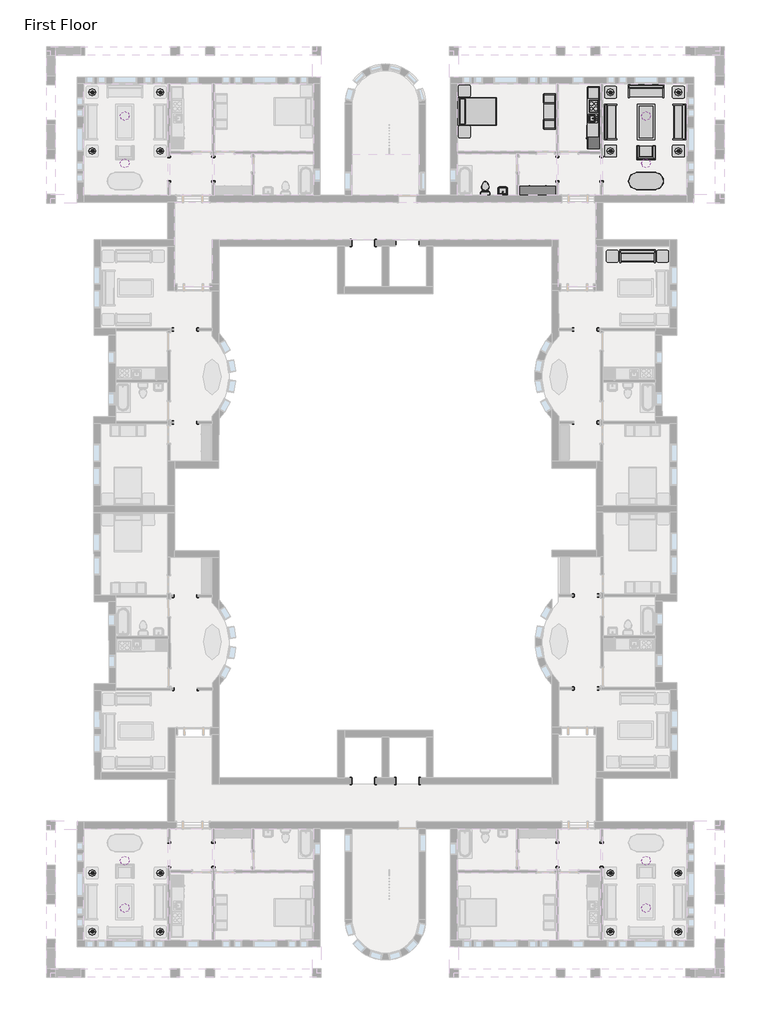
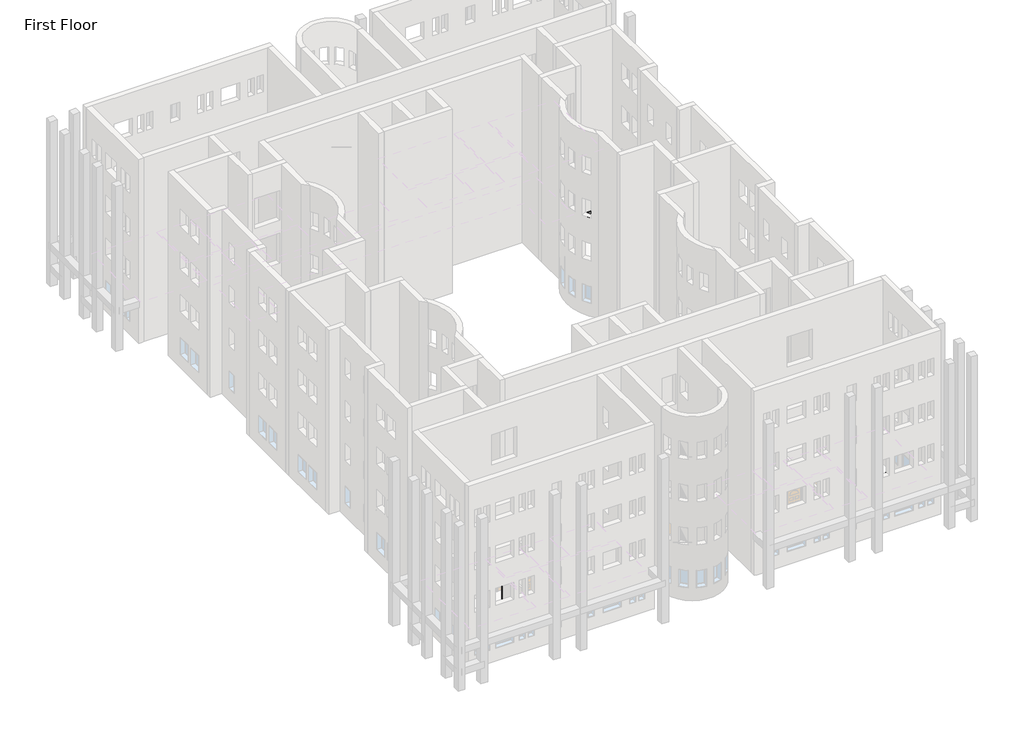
# One storey, part 21 of 21: 24 light fixtures, 21 proxies, 18 furniture elements, 2 flow terminals.
"""IFC4 building model written with IfcOpenShell, lengths in millimetres."""

from ifc_helpers import new_model, si_unit, origin, place, context, project, spatial, transform, mapped, element, save
from components import proxy_64a468c4, proxy_1227038f, proxy_f44482cc, proxy_c3589814, proxy_d58c73d0, proxy_1659ed5c, flow_terminal_0aeb31e3, toilet_domestic_3d_toilet_domestic_3d_f7549cf7, toilet_domestic_3d_toilet_domestic_3d_183bbd19, furniture_096e7f55, chair_corbu_chair_corbu_2764bdef, furniture_7c473f12, furniture_ddc78764, furniture_4ef38d96, furniture_cd93a443, furniture_2c34a4f9, furniture_3a588284, furniture_1befe2a2, pendant_disk_c68bffb6, pendant_disk_c567000c, table_lamp_1_100_watt_incandescent_6e8cd8b1, table_lamp_1_100_watt_incandescent_b33ea945

model = new_model("IFC4")

# Units and contexts
model_context = context("Model", 3, world=origin())
ifc_project = project(units=[si_unit("LENGTHUNIT", "METRE", prefix="MILLI")], contexts=[model_context])

# Site, building, storey
site = spatial("IfcSite", under=ifc_project)
building = spatial("IfcBuilding", under=site)
storey = spatial("IfcBuildingStorey", under=building, Name="First Floor", Elevation=0.0)

# Proxies
placement = place(None, origin())
proxy_shape = proxy_64a468c4(model_context)
element("IfcBuildingElementProxy", 1, Name="Kitchenette - Medium : 8'6\"", ObjectType="Kitchenette - Medium : 8'6\"", at=placement, inside=storey, context=model_context, shape_type="MappedRepresentation", body=[
    mapped(proxy_shape, transform((-3887.7589563, 8837.7956433, 0.0), x_axis=(0.0, -1.0, 0.0), y_axis=(1.0, 0.0, 0.0), z_axis=(0.0, 0.0, 1.0))),
])
proxy_2_shape = proxy_1227038f(model_context)
element("IfcBuildingElementProxy", 2, Name="Opening-Cased : 48\" x 84\"", ObjectType="Opening-Cased : 48\" x 84\"", at=placement, inside=storey, context=model_context, shape_type="MappedRepresentation", body=[
    mapped(proxy_2_shape, transform((-13800.360113, 2064.2316867, 0.0), x_axis=(-1.0, 0.0, 0.0), y_axis=(0.0, -1.0, 0.0), z_axis=(0.0, 0.0, 1.0))),
])
proxy_3_shape = proxy_f44482cc(model_context)
element("IfcBuildingElementProxy", 3, Name="Opening-Cased : 48\" x 84\"", ObjectType="Opening-Cased : 48\" x 84\"", at=placement, inside=storey, context=model_context, shape_type="MappedRepresentation", body=[
    mapped(proxy_3_shape, transform((-3773.4589563, 5882.4203434, 0.0), x_axis=(0.0, 1.0, 0.0), y_axis=(-1.0, 0.0, 0.0), z_axis=(0.0, 0.0, 1.0))),
])
element("IfcBuildingElementProxy", 4, Name="Opening-Cased : 48\" x 84\"", ObjectType="Opening-Cased : 48\" x 84\"", at=placement, inside=storey, context=model_context, shape_type="MappedRepresentation", body=[
    mapped(proxy_3_shape, transform((-6059.4589563, 5866.04303, 0.0), x_axis=(0.0, -1.0, 0.0), y_axis=(1.0, 0.0, 0.0), z_axis=(0.0, 0.0, 1.0))),
])
element("IfcBuildingElementProxy", 5, Name="Opening-Cased : 48\" x 84\"", ObjectType="Opening-Cased : 48\" x 84\"", at=placement, inside=storey, context=model_context, shape_type="MappedRepresentation", body=[
    mapped(proxy_3_shape, transform((-26096.8839563, -29490.75697, 0.0), x_axis=(0.0, -1.0, 0.0), y_axis=(1.0, 0.0, 0.0), z_axis=(0.0, 0.0, 1.0))),
])
element("IfcBuildingElementProxy", 6, Name="Opening-Cased : 48\" x 84\"", ObjectType="Opening-Cased : 48\" x 84\"", at=placement, inside=storey, context=model_context, shape_type="MappedRepresentation", body=[
    mapped(proxy_3_shape, transform((-23810.8839563, -29474.3796566, 0.0), x_axis=(0.0, 1.0, 0.0), y_axis=(-1.0, 0.0, 0.0), z_axis=(0.0, 0.0, 1.0))),
])
element("IfcBuildingElementProxy", 7, Name="Opening-Cased : 48\" x 84\"", ObjectType="Opening-Cased : 48\" x 84\"", at=placement, inside=storey, context=model_context, shape_type="MappedRepresentation", body=[
    mapped(proxy_3_shape, transform((-25255.9184237, -7193.9601365, 0.0), x_axis=(0.9999997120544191, -0.000758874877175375, 0.0), y_axis=(0.000758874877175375, 0.9999997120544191, 0.0), z_axis=(0.0, 0.0, 1.0))),
])
element("IfcBuildingElementProxy", 8, Name="Opening-Cased : 48\" x 84\"", ObjectType="Opening-Cased : 48\" x 84\"", at=placement, inside=storey, context=model_context, shape_type="MappedRepresentation", body=[
    mapped(proxy_3_shape, transform((-25268.6550871, -2396.5240896, 0.0), x_axis=(-0.9999997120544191, 0.0007588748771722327, 0.0), y_axis=(-0.0007588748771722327, -0.9999997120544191, 0.0), z_axis=(0.0, 0.0, 1.0))),
])
element("IfcBuildingElementProxy", 9, Name="Opening-Cased : 48\" x 84\"", ObjectType="Opening-Cased : 48\" x 84\"", at=placement, inside=storey, context=model_context, shape_type="MappedRepresentation", body=[
    mapped(proxy_3_shape, transform((-4607.6564064, -16112.5325685, 0.0), x_axis=(-0.9999997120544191, -0.0007588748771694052, 0.0), y_axis=(0.0007588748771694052, -0.9999997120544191, 0.0), z_axis=(0.0, 0.0, 1.0))),
])
element("IfcBuildingElementProxy", 10, Name="Opening-Cased : 48\" x 84\"", ObjectType="Opening-Cased : 48\" x 84\"", at=placement, inside=storey, context=model_context, shape_type="MappedRepresentation", body=[
    mapped(proxy_3_shape, transform((-4587.6384524, -20909.9437587, 0.0), x_axis=(0.9999997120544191, 0.0007588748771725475, 0.0), y_axis=(-0.0007588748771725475, 0.9999997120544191, 0.0), z_axis=(0.0, 0.0, 1.0))),
])
proxy_4_shape = proxy_c3589814(model_context)
element("IfcBuildingElementProxy", 11, Name="Opening-Cased : 48\" x 84\"", ObjectType="Opening-Cased : 48\" x 84\"", at=placement, inside=storey, context=model_context, shape_type="MappedRepresentation", body=[
    mapped(proxy_4_shape, transform((-16086.360113, 2064.2316867, 0.0), x_axis=(-1.0, 0.0, 0.0), y_axis=(0.0, -1.0, 0.0), z_axis=(0.0, 0.0, 1.0))),
])
proxy_5_shape = proxy_d58c73d0(model_context)
element("IfcBuildingElementProxy", 12, Name="Opening-Cased : 48\" x 84\"", ObjectType="Opening-Cased : 48\" x 84\"", at=placement, inside=storey, context=model_context, shape_type="MappedRepresentation", body=[
    mapped(proxy_5_shape, transform((-26096.8839563, 5882.4203434, 0.0), x_axis=(0.0, 1.0, 0.0), y_axis=(-1.0, 0.0, 0.0), z_axis=(0.0, 0.0, 1.0))),
])
element("IfcBuildingElementProxy", 13, Name="Opening-Cased : 48\" x 84\"", ObjectType="Opening-Cased : 48\" x 84\"", at=placement, inside=storey, context=model_context, shape_type="MappedRepresentation", body=[
    mapped(proxy_5_shape, transform((-23810.8839563, 5866.04303, 0.0), x_axis=(0.0, -1.0, 0.0), y_axis=(1.0, 0.0, 0.0), z_axis=(0.0, 0.0, 1.0))),
])
element("IfcBuildingElementProxy", 14, Name="Opening-Cased : 48\" x 84\"", ObjectType="Opening-Cased : 48\" x 84\"", at=placement, inside=storey, context=model_context, shape_type="MappedRepresentation", body=[
    mapped(proxy_5_shape, transform((-3773.4589563, -29490.75697, 0.0), x_axis=(0.0, -1.0, 0.0), y_axis=(1.0, 0.0, 0.0), z_axis=(0.0, 0.0, 1.0))),
])
element("IfcBuildingElementProxy", 15, Name="Opening-Cased : 48\" x 84\"", ObjectType="Opening-Cased : 48\" x 84\"", at=placement, inside=storey, context=model_context, shape_type="MappedRepresentation", body=[
    mapped(proxy_5_shape, transform((-6059.4589563, -29474.3796566, 0.0), x_axis=(0.0, 1.0, 0.0), y_axis=(-1.0, 0.0, 0.0), z_axis=(0.0, 0.0, 1.0))),
])
element("IfcBuildingElementProxy", 16, Name="Opening-Cased : 48\" x 84\"", ObjectType="Opening-Cased : 48\" x 84\"", at=placement, inside=storey, context=model_context, shape_type="MappedRepresentation", body=[
    mapped(proxy_5_shape, transform((-4614.4244889, -7193.9601365, 0.0), x_axis=(-0.9999997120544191, -0.000758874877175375, 0.0), y_axis=(0.000758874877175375, -0.9999997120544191, 0.0), z_axis=(0.0, 0.0, 1.0))),
])
element("IfcBuildingElementProxy", 17, Name="Opening-Cased : 48\" x 84\"", ObjectType="Opening-Cased : 48\" x 84\"", at=placement, inside=storey, context=model_context, shape_type="MappedRepresentation", body=[
    mapped(proxy_5_shape, transform((-4601.6878255, -2396.5240896, 0.0), x_axis=(0.9999997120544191, 0.0007588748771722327, 0.0), y_axis=(-0.0007588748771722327, 0.9999997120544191, 0.0), z_axis=(0.0, 0.0, 1.0))),
])
element("IfcBuildingElementProxy", 18, Name="Opening-Cased : 48\" x 84\"", ObjectType="Opening-Cased : 48\" x 84\"", at=placement, inside=storey, context=model_context, shape_type="MappedRepresentation", body=[
    mapped(proxy_5_shape, transform((-25249.1265667, -16143.8611818, 0.0), x_axis=(0.9999974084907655, 0.0022766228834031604, 0.0), y_axis=(-0.0022766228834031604, 0.9999974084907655, 0.0), z_axis=(0.0, 0.0, 1.0))),
])
element("IfcBuildingElementProxy", 19, Name="Opening-Cased : 48\" x 84\"", ObjectType="Opening-Cased : 48\" x 84\"", at=placement, inside=storey, context=model_context, shape_type="MappedRepresentation", body=[
    mapped(proxy_5_shape, transform((-25254.5819101, -20941.3110342, 0.0), x_axis=(-0.9999974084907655, -0.002276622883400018, 0.0), y_axis=(0.002276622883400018, -0.9999974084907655, 0.0), z_axis=(0.0, 0.0, 1.0))),
])
proxy_6_shape = proxy_1659ed5c(model_context)
element("IfcBuildingElementProxy", 20, Name="Opening-Cased : 48\" x 84\"", ObjectType="Opening-Cased : 48\" x 84\"", at=placement, inside=storey, context=model_context, shape_type="MappedRepresentation", body=[
    mapped(proxy_6_shape, transform((-16086.360113, -25672.5683133, 0.0), x_axis=(-1.0, 0.0, 0.0), y_axis=(0.0, -1.0, 0.0), z_axis=(0.0, 0.0, 1.0))),
])
element("IfcBuildingElementProxy", 21, Name="Opening-Cased : 48\" x 84\"", ObjectType="Opening-Cased : 48\" x 84\"", at=placement, inside=storey, context=model_context, shape_type="MappedRepresentation", body=[
    mapped(proxy_6_shape, transform((-13800.360113, -25672.5683133, 0.0), x_axis=(-1.0, 0.0, 0.0), y_axis=(0.0, -1.0, 0.0), z_axis=(0.0, 0.0, 1.0))),
])

# Flow terminals
flow_terminal_shape = flow_terminal_0aeb31e3(model_context)
element("IfcFlowTerminal", 22, ObjectType="Sink Vanity-Square : 24\" x 19\"", at=placement, inside=storey, context=model_context, shape_type="MappedRepresentation", body=[
    mapped(flow_terminal_shape, transform((-8864.7572157, 4706.5895878, 0.0), x_axis=(-1.0, 0.0, 0.0), y_axis=(0.0, -1.0, 0.0), z_axis=(0.0, 0.0, 1.0))),
])
toilet_domestic_3d_toilet_domestic_3d_shape = toilet_domestic_3d_toilet_domestic_3d_f7549cf7(model_context)
toilet_domestic_3d_toilet_domestic_3d_2_shape = toilet_domestic_3d_toilet_domestic_3d_183bbd19(model_context)
element("IfcFlowTerminal", 23, ObjectType="Toilet-Domestic-3D : Toilet-Domestic-3D", at=placement, inside=storey, context=model_context, shape_type="MappedRepresentation", body=[
    mapped(toilet_domestic_3d_toilet_domestic_3d_shape, transform((-9782.1466587, 4940.866411, 0.0), x_axis=(-1.0000000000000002, 0.0, 0.0), y_axis=(0.0, -1.0000000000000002, 0.0), z_axis=(0.0, 0.0, 1.0))),
    mapped(toilet_domestic_3d_toilet_domestic_3d_2_shape, transform((-9782.1466587, 4940.866411, 0.0), x_axis=(-1.0000000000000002, 0.0, 0.0), y_axis=(0.0, -1.0000000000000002, 0.0), z_axis=(0.0, 0.0, 1.0))),
])

# Furniture
furniture_shape = furniture_096e7f55(model_context)
element("IfcFurniture", 24, ObjectType="Bed-Shaker : Double 56\" x 78\"", at=placement, inside=storey, context=model_context, shape_type="MappedRepresentation", body=[
    mapped(furniture_shape, transform((-11183.1982802, 8871.8755561, 0.0), x_axis=(0.0, 1.0, 0.0), y_axis=(-1.0, 0.0, 0.0), z_axis=(0.0, 0.0, 1.0))),
])
chair_corbu_chair_corbu_shape = chair_corbu_chair_corbu_2764bdef(model_context)
element("IfcFurniture", 25, ObjectType="Chair-Corbu : Chair-Corbu", at=placement, inside=storey, context=model_context, shape_type="MappedRepresentation", body=[
    mapped(chair_corbu_chair_corbu_shape, transform((-914.0851858, 7193.4962359, 0.0), x_axis=(-1.0, 0.0, 0.0), y_axis=(0.0, -1.0, 0.0), z_axis=(0.0, 0.0, 1.0))),
])
furniture_2_shape = furniture_7c473f12(model_context)
element("IfcFurniture", 26, ObjectType="Dresser : 72\" x 60\" x 18\"", at=placement, inside=storey, context=model_context, shape_type="MappedRepresentation", body=[
    mapped(furniture_2_shape, transform((-7344.6522161, 4404.5812326, 0.0), x_axis=(-1.0, 0.0, 0.0), y_axis=(0.0, -1.0, 0.0), z_axis=(0.0, 0.0, 1.0))),
])
furniture_3_shape = furniture_ddc78764(model_context)
element("IfcFurniture", 27, ObjectType="Entertainment Center : 72\" x 72\" x 24\"", at=placement, inside=storey, context=model_context, shape_type="MappedRepresentation", body=[
    mapped(furniture_3_shape, transform((-6059.4589563, 8852.8255561, 0.0), x_axis=(0.0, -1.0, 0.0), y_axis=(1.0, 0.0, 0.0), z_axis=(0.0, 0.0, 1.0))),
])
furniture_4_shape = furniture_4ef38d96(model_context)
element("IfcFurniture", 28, ObjectType="Sofa : 72\"", at=placement, inside=storey, context=model_context, shape_type="MappedRepresentation", body=[
    mapped(furniture_4_shape, transform((-1557.8294481, 9741.2775883, 0.0), x_axis=(1.0, 0.0, 0.0), y_axis=(0.0, 1.0, 0.0), z_axis=(0.0, 0.0, 1.0))),
])
element("IfcFurniture", 29, ObjectType="Sofa : 72\"", at=placement, inside=storey, context=model_context, shape_type="MappedRepresentation", body=[
    mapped(furniture_4_shape, transform((93.5869453, 8383.0021785, 0.0), x_axis=(0.0, -1.0, 0.0), y_axis=(1.0, 0.0, 0.0), z_axis=(0.0, 0.0, 1.0))),
])
element("IfcFurniture", 30, ObjectType="Sofa : 72\"", at=placement, inside=storey, context=model_context, shape_type="MappedRepresentation", body=[
    mapped(furniture_4_shape, transform((-3170.104858, 8242.2611949, 0.0), x_axis=(0.0, 1.0, 0.0), y_axis=(-1.0, 0.0, 0.0), z_axis=(0.0, 0.0, 1.0))),
])
element("IfcFurniture", 31, ObjectType="Sofa : 72\"", at=placement, inside=storey, context=model_context, shape_type="MappedRepresentation", body=[
    mapped(furniture_4_shape, transform((-1999.8589518, 1243.0167642, 0.0), x_axis=(0.999999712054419, 0.0007588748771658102, 0.0), y_axis=(-0.0007588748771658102, 0.999999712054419, 0.0), z_axis=(0.0, 0.0, 1.0))),
])
furniture_5_shape = furniture_cd93a443(model_context)
element("IfcFurniture", 32, ObjectType="Table-Coffee : 36\" x 72\" x 18\"", at=placement, inside=storey, context=model_context, shape_type="MappedRepresentation", body=[
    mapped(furniture_5_shape, transform((-1582.6700341, 8330.8974534, 0.0), x_axis=(0.0, -1.0, 0.0), y_axis=(1.0, 0.0, 0.0), z_axis=(0.0, 0.0, 1.0))),
])
furniture_6_shape = furniture_2c34a4f9(model_context)
element("IfcFurniture", 33, ObjectType="Table-Dining Oval : 36\" x 72\"", at=placement, inside=storey, context=model_context, shape_type="MappedRepresentation", body=[
    mapped(furniture_6_shape, transform((-1085.6392842, 5622.7300473, 0.0), x_axis=(1.0, 0.0, 0.0), y_axis=(0.0, 1.0, 0.0), z_axis=(0.0, 0.0, 1.0))),
])
furniture_7_shape = furniture_3a588284(model_context)
element("IfcFurniture", 34, ObjectType="Table-End : 24\" x 24\"", at=placement, inside=storey, context=model_context, shape_type="MappedRepresentation", body=[
    mapped(furniture_7_shape, transform((-119.5925866, 9684.2316867, 0.0), x_axis=(1.0, 0.0, 0.0), y_axis=(0.0, 1.0, 0.0), z_axis=(0.0, 0.0, 1.0))),
])
element("IfcFurniture", 35, ObjectType="Table-End : 24\" x 24\"", at=placement, inside=storey, context=model_context, shape_type="MappedRepresentation", body=[
    mapped(furniture_7_shape, transform((-3624.7925866, 9684.2316867, 0.0), x_axis=(1.0, 0.0, 0.0), y_axis=(0.0, 1.0, 0.0), z_axis=(0.0, 0.0, 1.0))),
])
element("IfcFurniture", 36, ObjectType="Table-End : 24\" x 24\"", at=placement, inside=storey, context=model_context, shape_type="MappedRepresentation", body=[
    mapped(furniture_7_shape, transform((-3624.7925866, 6660.0441867, 0.0), x_axis=(1.0, 0.0, 0.0), y_axis=(0.0, 1.0, 0.0), z_axis=(0.0, 0.0, 1.0))),
])
element("IfcFurniture", 37, ObjectType="Table-End : 24\" x 24\"", at=placement, inside=storey, context=model_context, shape_type="MappedRepresentation", body=[
    mapped(furniture_7_shape, transform((-119.5925866, 6660.0441867, 0.0), x_axis=(1.0, 0.0, 0.0), y_axis=(0.0, 1.0, 0.0), z_axis=(0.0, 0.0, 1.0))),
])
element("IfcFurniture", 38, ObjectType="Table-End : 24\" x 24\"", at=placement, inside=storey, context=model_context, shape_type="MappedRepresentation", body=[
    mapped(furniture_7_shape, transform((-11164.2346356, 9756.0737357, 0.0), x_axis=(1.0, 0.0, 0.0), y_axis=(0.0, 1.0, 0.0), z_axis=(0.0, 0.0, 1.0))),
])
element("IfcFurniture", 39, ObjectType="Table-End : 24\" x 24\"", at=placement, inside=storey, context=model_context, shape_type="MappedRepresentation", body=[
    mapped(furniture_7_shape, transform((-786.8338604, 1698.6251583, 0.0), x_axis=(0.0007588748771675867, -0.9999997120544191, 0.0), y_axis=(0.9999997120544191, 0.0007588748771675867, 0.0), z_axis=(0.0, 0.0, 1.0))),
])
furniture_8_shape = furniture_1befe2a2(model_context)
element("IfcFurniture", 40, ObjectType="Table-End : 24\" x 24\"", at=placement, inside=storey, context=model_context, shape_type="MappedRepresentation", body=[
    mapped(furniture_8_shape, transform((-11164.2346356, 7949.5773764, 0.0), x_axis=(1.0, 0.0, 0.0), y_axis=(0.0, 1.0, 0.0), z_axis=(0.0, 0.0, 1.0))),
])
element("IfcFurniture", 41, ObjectType="Table-End : 24\" x 24\"", at=placement, inside=storey, context=model_context, shape_type="MappedRepresentation", body=[
    mapped(furniture_8_shape, transform((-3072.8332022, 1696.8903703, 0.0), x_axis=(0.0007588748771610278, -0.9999997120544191, 0.0), y_axis=(0.9999997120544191, 0.0007588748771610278, 0.0), z_axis=(0.0, 0.0, 1.0))),
])

# Light fixtures
pendant_disk_shape = pendant_disk_c68bffb6(model_context)
element("IfcLightFixture", 42, ObjectType="Pendant - Disk : 150 watt Incandescant", at=placement, inside=storey, context=model_context, shape_type="MappedRepresentation", body=[
    mapped(pendant_disk_shape, transform((-1487.4589563, 8617.4316867, 152.3999938), x_axis=(1.0, 0.0, 0.0), y_axis=(0.0, 1.0, 0.0), z_axis=(0.0, 0.0, 1.0))),
])
element("IfcLightFixture", 43, ObjectType="Pendant - Disk : 150 watt Incandescant", at=placement, inside=storey, context=model_context, shape_type="MappedRepresentation", body=[
    mapped(pendant_disk_shape, transform((-1487.4589563, 6179.0316867, 152.3999938), x_axis=(1.0, 0.0, 0.0), y_axis=(0.0, 1.0, 0.0), z_axis=(0.0, 0.0, 1.0))),
])
pendant_disk_2_shape = pendant_disk_c567000c(model_context)
element("IfcLightFixture", 44, ObjectType="Pendant - Disk : 150 watt Incandescant", at=placement, inside=storey, context=model_context, shape_type="MappedRepresentation", body=[
    mapped(pendant_disk_2_shape, transform((-28382.8839563, 8617.4316867, 152.3999938), x_axis=(-1.0, 0.0, 0.0), y_axis=(0.0, -1.0, 0.0), z_axis=(0.0, 0.0, 1.0))),
])
element("IfcLightFixture", 45, ObjectType="Pendant - Disk : 150 watt Incandescant", at=placement, inside=storey, context=model_context, shape_type="MappedRepresentation", body=[
    mapped(pendant_disk_2_shape, transform((-28382.8839563, 6179.0316867, 152.3999938), x_axis=(-1.0, 0.0, 0.0), y_axis=(0.0, -1.0, 0.0), z_axis=(0.0, 0.0, 1.0))),
])
element("IfcLightFixture", 46, ObjectType="Pendant - Disk : 150 watt Incandescant", at=placement, inside=storey, context=model_context, shape_type="MappedRepresentation", body=[
    mapped(pendant_disk_2_shape, transform((-1487.4589563, -32225.7683133, 152.3999938), x_axis=(1.0, 0.0, 0.0), y_axis=(0.0, 1.0, 0.0), z_axis=(0.0, 0.0, 1.0))),
])
element("IfcLightFixture", 47, ObjectType="Pendant - Disk : 150 watt Incandescant", at=placement, inside=storey, context=model_context, shape_type="MappedRepresentation", body=[
    mapped(pendant_disk_2_shape, transform((-1487.4589563, -29787.3683133, 152.3999938), x_axis=(1.0, 0.0, 0.0), y_axis=(0.0, 1.0, 0.0), z_axis=(0.0, 0.0, 1.0))),
])
element("IfcLightFixture", 48, ObjectType="Pendant - Disk : 150 watt Incandescant", at=placement, inside=storey, context=model_context, shape_type="MappedRepresentation", body=[
    mapped(pendant_disk_shape, transform((-28382.8839563, -32225.7683133, 152.3999938), x_axis=(-1.0, 0.0, 0.0), y_axis=(0.0, -1.0, 0.0), z_axis=(0.0, 0.0, 1.0))),
])
element("IfcLightFixture", 49, ObjectType="Pendant - Disk : 150 watt Incandescant", at=placement, inside=storey, context=model_context, shape_type="MappedRepresentation", body=[
    mapped(pendant_disk_shape, transform((-28382.8839563, -29787.3683133, 152.3999938), x_axis=(-1.0, 0.0, 0.0), y_axis=(0.0, -1.0, 0.0), z_axis=(0.0, 0.0, 1.0))),
])
table_lamp_1_100_watt_incandescent_shape = table_lamp_1_100_watt_incandescent_6e8cd8b1(model_context)
element("IfcLightFixture", 50, ObjectType="Table Lamp 1 : 100 watt Incandescent", at=placement, inside=storey, context=model_context, shape_type="MappedRepresentation", body=[
    mapped(table_lamp_1_100_watt_incandescent_shape, transform((188.9410437, 6812.4441867, 381.0), x_axis=(1.0, 0.0, 0.0), y_axis=(0.0, 1.0, 0.0), z_axis=(0.0, 0.0, 1.0))),
])
element("IfcLightFixture", 51, ObjectType="Table Lamp 1 : 100 watt Incandescent", at=placement, inside=storey, context=model_context, shape_type="MappedRepresentation", body=[
    mapped(table_lamp_1_100_watt_incandescent_shape, transform((-3316.2589563, 9836.6316867, 381.0), x_axis=(1.0, 0.0, 0.0), y_axis=(0.0, 1.0, 0.0), z_axis=(0.0, 0.0, 1.0))),
])
element("IfcLightFixture", 52, ObjectType="Table Lamp 1 : 100 watt Incandescent", at=placement, inside=storey, context=model_context, shape_type="MappedRepresentation", body=[
    mapped(table_lamp_1_100_watt_incandescent_shape, transform((188.9410437, 9836.6316867, 381.0), x_axis=(1.0, 0.0, 0.0), y_axis=(0.0, 1.0, 0.0), z_axis=(0.0, 0.0, 1.0))),
])
element("IfcLightFixture", 53, ObjectType="Table Lamp 1 : 100 watt Incandescent", at=placement, inside=storey, context=model_context, shape_type="MappedRepresentation", body=[
    mapped(table_lamp_1_100_watt_incandescent_shape, transform((-3316.2589563, 6812.4441867, 381.0), x_axis=(1.0, 0.0, 0.0), y_axis=(0.0, 1.0, 0.0), z_axis=(0.0, 0.0, 1.0))),
])
element("IfcLightFixture", 54, ObjectType="Table Lamp 1 : 100 watt Incandescent", at=placement, inside=storey, context=model_context, shape_type="MappedRepresentation", body=[
    mapped(table_lamp_1_100_watt_incandescent_shape, transform((-30059.2839563, -30420.7808133, 381.0), x_axis=(-1.0, 0.0, 0.0), y_axis=(0.0, -1.0, 0.0), z_axis=(0.0, 0.0, 1.0))),
])
element("IfcLightFixture", 55, ObjectType="Table Lamp 1 : 100 watt Incandescent", at=placement, inside=storey, context=model_context, shape_type="MappedRepresentation", body=[
    mapped(table_lamp_1_100_watt_incandescent_shape, transform((-26554.0839563, -33444.9683133, 381.0), x_axis=(-1.0, 0.0, 0.0), y_axis=(0.0, -1.0, 0.0), z_axis=(0.0, 0.0, 1.0))),
])
element("IfcLightFixture", 56, ObjectType="Table Lamp 1 : 100 watt Incandescent", at=placement, inside=storey, context=model_context, shape_type="MappedRepresentation", body=[
    mapped(table_lamp_1_100_watt_incandescent_shape, transform((-30059.2839563, -33444.9683133, 381.0), x_axis=(-1.0, 0.0, 0.0), y_axis=(0.0, -1.0, 0.0), z_axis=(0.0, 0.0, 1.0))),
])
element("IfcLightFixture", 57, ObjectType="Table Lamp 1 : 100 watt Incandescent", at=placement, inside=storey, context=model_context, shape_type="MappedRepresentation", body=[
    mapped(table_lamp_1_100_watt_incandescent_shape, transform((-26554.0839563, -30420.7808133, 381.0), x_axis=(-1.0, 0.0, 0.0), y_axis=(0.0, -1.0, 0.0), z_axis=(0.0, 0.0, 1.0))),
])
table_lamp_1_100_watt_incandescent_2_shape = table_lamp_1_100_watt_incandescent_b33ea945(model_context)
element("IfcLightFixture", 58, ObjectType="Table Lamp 1 : 100 watt Incandescent", at=placement, inside=storey, context=model_context, shape_type="MappedRepresentation", body=[
    mapped(table_lamp_1_100_watt_incandescent_2_shape, transform((-30059.2839563, 6812.4441867, 381.0), x_axis=(-1.0, 0.0, 0.0), y_axis=(0.0, -1.0, 0.0), z_axis=(0.0, 0.0, 1.0))),
])
element("IfcLightFixture", 59, ObjectType="Table Lamp 1 : 100 watt Incandescent", at=placement, inside=storey, context=model_context, shape_type="MappedRepresentation", body=[
    mapped(table_lamp_1_100_watt_incandescent_2_shape, transform((-26554.0839563, 9836.6316867, 381.0), x_axis=(-1.0, 0.0, 0.0), y_axis=(0.0, -1.0, 0.0), z_axis=(0.0, 0.0, 1.0))),
])
element("IfcLightFixture", 60, ObjectType="Table Lamp 1 : 100 watt Incandescent", at=placement, inside=storey, context=model_context, shape_type="MappedRepresentation", body=[
    mapped(table_lamp_1_100_watt_incandescent_2_shape, transform((-30059.2839563, 9836.6316867, 381.0), x_axis=(-1.0, 0.0, 0.0), y_axis=(0.0, -1.0, 0.0), z_axis=(0.0, 0.0, 1.0))),
])
element("IfcLightFixture", 61, ObjectType="Table Lamp 1 : 100 watt Incandescent", at=placement, inside=storey, context=model_context, shape_type="MappedRepresentation", body=[
    mapped(table_lamp_1_100_watt_incandescent_2_shape, transform((-26554.0839563, 6812.4441867, 381.0), x_axis=(-1.0, 0.0, 0.0), y_axis=(0.0, -1.0, 0.0), z_axis=(0.0, 0.0, 1.0))),
])
element("IfcLightFixture", 62, ObjectType="Table Lamp 1 : 100 watt Incandescent", at=placement, inside=storey, context=model_context, shape_type="MappedRepresentation", body=[
    mapped(table_lamp_1_100_watt_incandescent_2_shape, transform((188.9410437, -30420.7808133, 381.0), x_axis=(1.0, 0.0, 0.0), y_axis=(0.0, 1.0, 0.0), z_axis=(0.0, 0.0, 1.0))),
])
element("IfcLightFixture", 63, ObjectType="Table Lamp 1 : 100 watt Incandescent", at=placement, inside=storey, context=model_context, shape_type="MappedRepresentation", body=[
    mapped(table_lamp_1_100_watt_incandescent_2_shape, transform((-3316.2589563, -33444.9683133, 381.0), x_axis=(1.0, 0.0, 0.0), y_axis=(0.0, 1.0, 0.0), z_axis=(0.0, 0.0, 1.0))),
])
element("IfcLightFixture", 64, ObjectType="Table Lamp 1 : 100 watt Incandescent", at=placement, inside=storey, context=model_context, shape_type="MappedRepresentation", body=[
    mapped(table_lamp_1_100_watt_incandescent_2_shape, transform((188.9410437, -33444.9683133, 381.0), x_axis=(1.0, 0.0, 0.0), y_axis=(0.0, 1.0, 0.0), z_axis=(0.0, 0.0, 1.0))),
])
element("IfcLightFixture", 65, ObjectType="Table Lamp 1 : 100 watt Incandescent", at=placement, inside=storey, context=model_context, shape_type="MappedRepresentation", body=[
    mapped(table_lamp_1_100_watt_incandescent_2_shape, transform((-3316.2589563, -30420.7808133, 381.0), x_axis=(1.0, 0.0, 0.0), y_axis=(0.0, 1.0, 0.0), z_axis=(0.0, 0.0, 1.0))),
])

save(model, "model.ifc")
